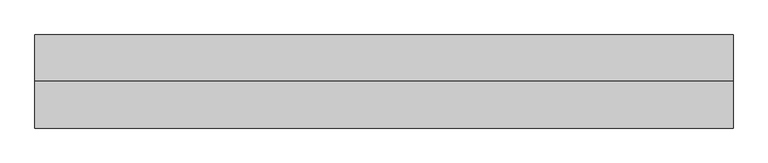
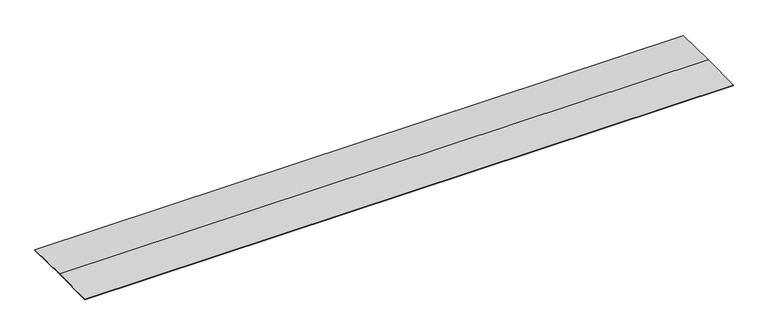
"""IFC4 building model written with IfcOpenShell, lengths in millimetres: beam geometry, 포장층 : 포장층."""

from ifc_helpers import new_model, si_unit, frame, origin, place, context, project, spatial, polyline, outline, extrude, source, transform, mapped, element, save


def beam_c8aa096b(model_context):
    return source(origin(), model_context, "Body", "SweptSolid", [
        extrude(outline(polyline([(10000.0, -200.0), (10000.0, -280.0), (0.0, -80.0), (-10000.0, -280.0), (-10000.0, -200.0), (0.0, 0.0), (10000.0, -200.0)])), frame((-75000.0, 0.0, 0.0), z_axis=(1.0, 0.0, 0.0), x_axis=(0.0, 1.0, 0.0)), (0.0, 0.0, 1.0), 150000.0),
    ])


if __name__ == "__main__":
    model = new_model("IFC4")
    model_context = context("Model", 3, world=origin())
    ifc_project = project(units=[si_unit("LENGTHUNIT", "METRE", prefix="MILLI")], contexts=[model_context])
    site = spatial("IfcSite", under=ifc_project)
    building = spatial("IfcBuilding", under=site)
    placement = place(None, origin())
    beam_shape = beam_c8aa096b(model_context)
    element("IfcBeam", 1, ObjectType="포장층 : 포장층", at=placement, inside=building, context=model_context, shape_type="MappedRepresentation", body=[
        mapped(beam_shape, transform((0.0, 0.0, 0.0), x_axis=(1.0, 0.0, 0.0), y_axis=(0.0, 1.0, 0.0), z_axis=(0.0, 0.0, 1.0))),
    ])
    save(model, "model.ifc")
